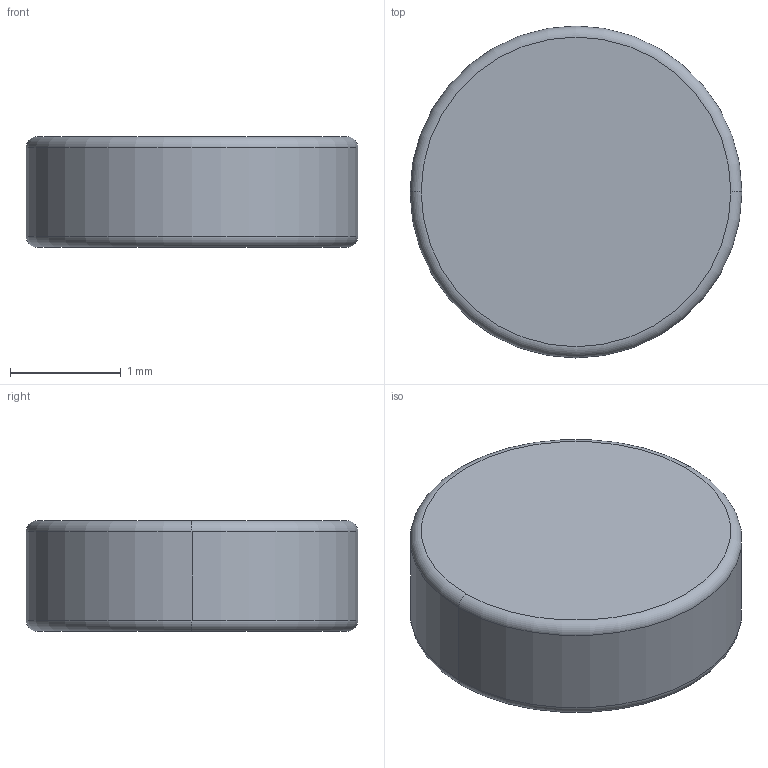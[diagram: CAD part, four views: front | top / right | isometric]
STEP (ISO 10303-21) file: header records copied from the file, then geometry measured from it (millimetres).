
FILE_DESCRIPTION (( 'STEP AP214' ), '1' );
FILE_NAME ('RMM3010A1A00.STEP', '2026-03-13T13:02:02', ( '' ), ( '' ), 'SwSTEP 2.0', 'SolidWorks 2024', '' );
FILE_SCHEMA (( 'AUTOMOTIVE_DESIGN' ));
Length unit declared in the file: millimetre
Products named in the file (1): RMM3010A1A00
Bounding box: 3 x 3 x 1 mm (x, y, z)
Volume: 7 mm3; surface area: 22.7 mm2
Topology: 1 solids, 1 shells, 8 faces, 14 edges, 8 vertices
Faces by surface type: torus 4, cylinder 2, plane 2
Entity records: 221 total; most frequent: DIRECTION 44, CARTESIAN_POINT 31, ORIENTED_EDGE 28, AXIS2_PLACEMENT_3D 21, EDGE_CURVE 14, CIRCLE 12, FACE_OUTER_BOUND 8, EDGE_LOOP 8
